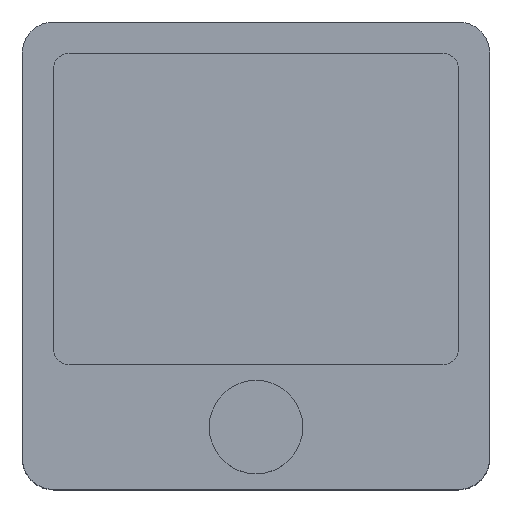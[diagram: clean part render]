
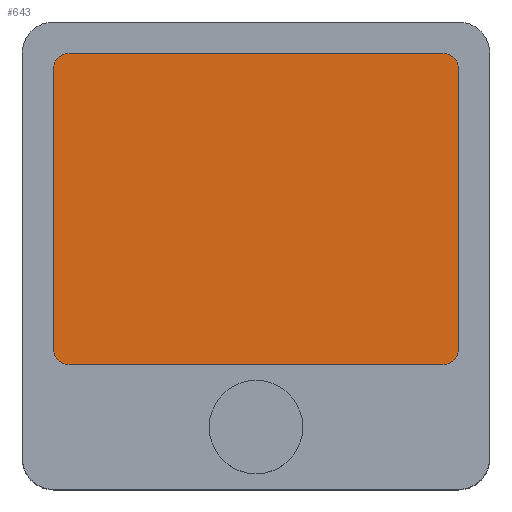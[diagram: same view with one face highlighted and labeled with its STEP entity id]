
A CAD part, top view. The second image highlights one B-rep face of the part: STEP entity #643.
In plain terms, the highlighted planar face has unit normal (0, 0, 1).
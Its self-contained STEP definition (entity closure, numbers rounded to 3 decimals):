
#38=PLANE('',#725);
#86=FACE_OUTER_BOUND('',#125,.T.);
#125=EDGE_LOOP('',(#539,#540,#541,#542,#543,#544,#545,#546));
#171=LINE('',#1046,#228);
#175=LINE('',#1058,#232);
#179=LINE('',#1070,#236);
#182=LINE('',#1079,#239);
#228=VECTOR('',#853,10.);
#232=VECTOR('',#865,10.);
#236=VECTOR('',#877,10.);
#239=VECTOR('',#888,10.);
#273=CIRCLE('',#711,1.);
#275=CIRCLE('',#715,1.);
#277=CIRCLE('',#719,1.);
#279=CIRCLE('',#723,1.);
#318=VERTEX_POINT('',#1036);
#319=VERTEX_POINT('',#1038);
#321=VERTEX_POINT('',#1044);
#323=VERTEX_POINT('',#1050);
#325=VERTEX_POINT('',#1056);
#327=VERTEX_POINT('',#1062);
#329=VERTEX_POINT('',#1068);
#331=VERTEX_POINT('',#1074);
#391=EDGE_CURVE('',#318,#319,#273,.T.);
#395=EDGE_CURVE('',#321,#318,#171,.T.);
#398=EDGE_CURVE('',#323,#321,#275,.T.);
#401=EDGE_CURVE('',#325,#323,#175,.T.);
#404=EDGE_CURVE('',#327,#325,#277,.T.);
#407=EDGE_CURVE('',#329,#327,#179,.T.);
#410=EDGE_CURVE('',#331,#329,#279,.T.);
#412=EDGE_CURVE('',#319,#331,#182,.T.);
#539=ORIENTED_EDGE('',*,*,#412,.F.);
#540=ORIENTED_EDGE('',*,*,#391,.F.);
#541=ORIENTED_EDGE('',*,*,#395,.F.);
#542=ORIENTED_EDGE('',*,*,#398,.F.);
#543=ORIENTED_EDGE('',*,*,#401,.F.);
#544=ORIENTED_EDGE('',*,*,#404,.F.);
#545=ORIENTED_EDGE('',*,*,#407,.F.);
#546=ORIENTED_EDGE('',*,*,#410,.F.);
#643=ADVANCED_FACE('',(#86),#38,.T.);
#711=AXIS2_PLACEMENT_3D('',#1039,#846,#847);
#715=AXIS2_PLACEMENT_3D('',#1052,#859,#860);
#719=AXIS2_PLACEMENT_3D('',#1064,#871,#872);
#723=AXIS2_PLACEMENT_3D('',#1076,#883,#884);
#725=AXIS2_PLACEMENT_3D('',#1080,#889,#890);
#846=DIRECTION('center_axis',(0.,0.,-1.));
#847=DIRECTION('ref_axis',(0.,-1.,0.));
#853=DIRECTION('',(0.,1.,0.));
#859=DIRECTION('center_axis',(0.,0.,-1.));
#860=DIRECTION('ref_axis',(1.,0.,0.));
#865=DIRECTION('',(-1.,0.,0.));
#871=DIRECTION('center_axis',(0.,0.,-1.));
#872=DIRECTION('ref_axis',(0.,1.,0.));
#877=DIRECTION('',(0.,-1.,0.));
#883=DIRECTION('center_axis',(0.,0.,-1.));
#884=DIRECTION('ref_axis',(-1.,0.,0.));
#888=DIRECTION('',(1.,0.,0.));
#889=DIRECTION('center_axis',(0.,0.,1.));
#890=DIRECTION('ref_axis',(1.,0.,0.));
#1036=CARTESIAN_POINT('',(-13.,12.,10.4));
#1038=CARTESIAN_POINT('',(-12.,13.,10.4));
#1039=CARTESIAN_POINT('Origin',(-12.,12.,10.4));
#1044=CARTESIAN_POINT('',(-13.,-6.,10.4));
#1046=CARTESIAN_POINT('',(-13.,-6.,10.4));
#1050=CARTESIAN_POINT('',(-12.,-7.,10.4));
#1052=CARTESIAN_POINT('Origin',(-12.,-6.,10.4));
#1056=CARTESIAN_POINT('',(12.,-7.,10.4));
#1058=CARTESIAN_POINT('',(12.,-7.,10.4));
#1062=CARTESIAN_POINT('',(13.,-6.,10.4));
#1064=CARTESIAN_POINT('Origin',(12.,-6.,10.4));
#1068=CARTESIAN_POINT('',(13.,12.,10.4));
#1070=CARTESIAN_POINT('',(13.,12.,10.4));
#1074=CARTESIAN_POINT('',(12.,13.,10.4));
#1076=CARTESIAN_POINT('Origin',(12.,12.,10.4));
#1079=CARTESIAN_POINT('',(-12.,13.,10.4));
#1080=CARTESIAN_POINT('Origin',(0.,3.,10.4));
